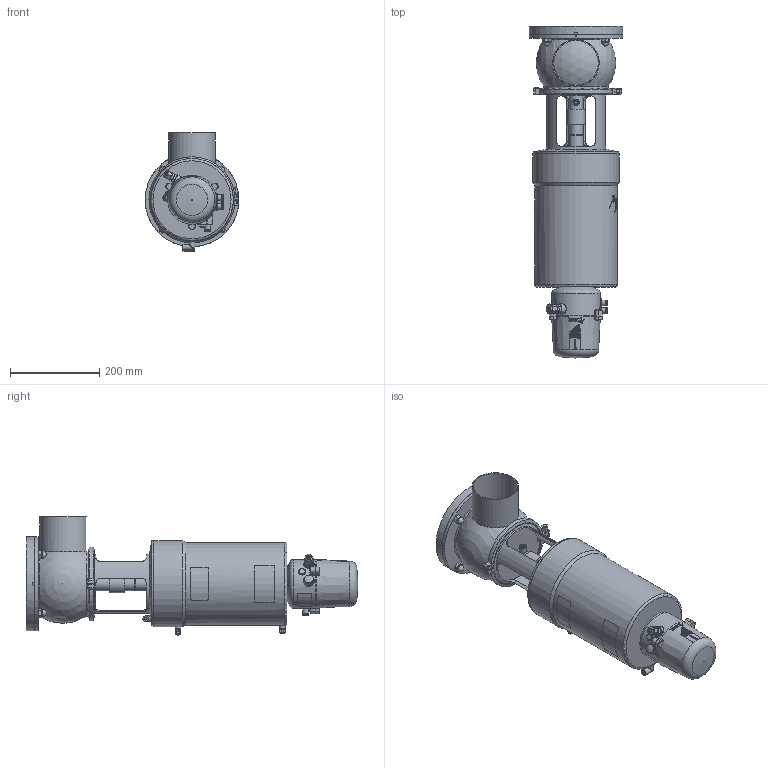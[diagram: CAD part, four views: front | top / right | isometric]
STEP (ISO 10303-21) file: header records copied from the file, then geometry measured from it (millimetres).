
FILE_DESCRIPTION (( 'STEP AP214' ), '1' );
FILE_NAME ('INNOVA T L W DIN 100 WITH FLANGE & C-TOP S_10.252.16.0007.STEP', '2024-08-20T12:55:23', ( '' ), ( '' ), 'SwSTEP 2.0', 'SolidWorks 2023', '' );
FILE_SCHEMA (( 'AUTOMOTIVE_DESIGN' ));
Length unit declared in the file: millimetre
Products named in the file (7): 10.250.15.0002_Type T T3; 10.252.15.0001_DIN 100; 10.240.15.0006_DIN 100; 10.426.15.0001_C-TOP S - 3 EV; 10.248.15.0003_DIN 100 _ OD 4"; 10.240.15.0001_DN 100; INNOVA T L W DIN 100 WITH FLANGE & C-TOP S_10.252.16.0007
Assembly tree (6 placements, depth 2):
  INNOVA T L W DIN 100 WITH FLANGE & C-TOP S_10.252.16.0007
    10.240.15.0006_DIN 100
    10.248.15.0003_DIN 100 _ OD 4"
    10.252.15.0001_DIN 100
    10.250.15.0002_Type T T3
    10.240.15.0001_DN 100
    10.426.15.0001_C-TOP S - 3 EV
Bounding box: 210 x 743.4 x 265 mm (x, y, z)
Volume: 13719687.1 mm3; surface area: 775187.1 mm2
Topology: 6 solids, 6 shells, 1199 faces, 2895 edges, 1927 vertices
Faces by surface type: plane 418, cylinder 380, cone 196, bspline 162, torus 33, sphere 10
Full cylindrical faces by diameter (mm): 0.371 x17, 0.512 x16, 0.658 x16, 0.795 x16, 0.94 x15, 1.098 x15, 1.241 x13, 1.382 x13, 1.523 x11, 1.669 x10, 2.201 x1, 4.2 x2, 5 x1, 5.5 x2, 6 x5, 6.15 x3, 8 x3, 10 x1, 10.5 x3, 11 x4, 12 x1, 12.5 x9, 13 x6, 13.5 x2, 14 x2, 16 x4, 17 x3, 20 x2, 22 x2, 30.5 x2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
Entity records: 61622 total; most frequent: CARTESIAN_POINT 29347, ORIENTED_EDGE 4888, DIRECTION 4015, EDGE_CURVE 2444, VERTEX_POINT 1738, EDGE_LOOP 1690, AXIS2_PLACEMENT_3D 1624, FACE_OUTER_BOUND 1429
